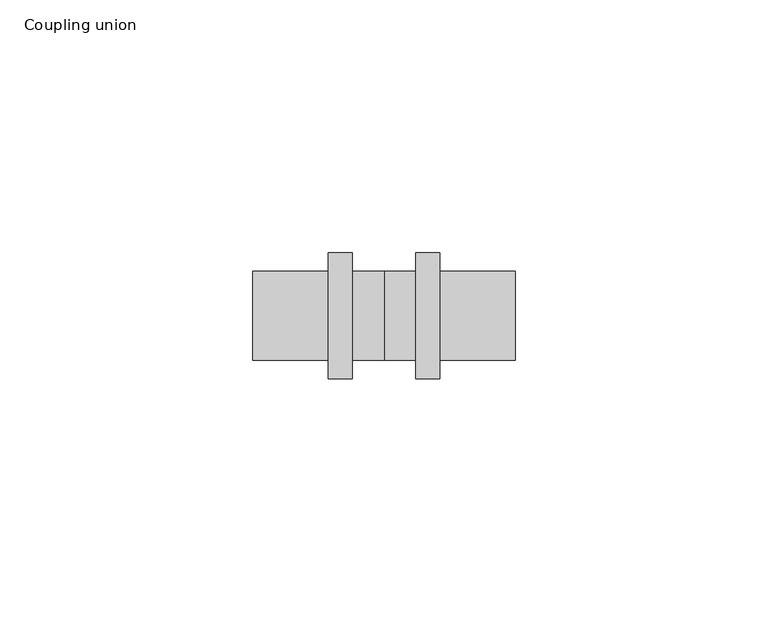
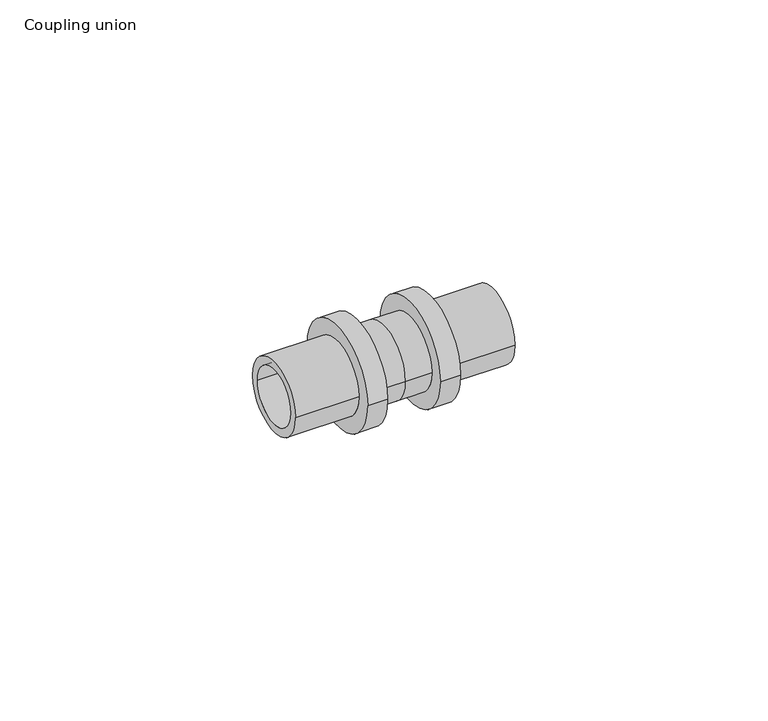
"""IFC4 building model written with IfcOpenShell, lengths in millimetres: pipe fitting geometry, Coupling union : C EQ SDR11 LX."""

from ifc_helpers import new_model, si_unit, frame, origin, place, context, project, spatial, polyline, circle_curve, source, transform, mapped, element, save
from ifc_brep_helpers import plane_surface, cylinder_surface, revolved_surface, advanced_brep


def coupling_union_0bb615ef(model_context):
    return source(origin(), model_context, "Body", "AdvancedBrep", [
        advanced_brep(
        [(11.0, 12.5, 0.0), (11.0, -12.5, 0.0), (6.3, -12.5, 0.0), (6.3, 12.5, 0.0), (26.0, 8.8, 0.0), (26.0, -8.8, 0.0), (11.0, -8.8, 0.0), (11.0, 8.8, 0.0), (-26.0, 6.8, 0.0), (-26.0, -6.8, 0.0), (26.0, -6.8, 0.0), (26.0, 6.8, 0.0), (-11.0, 8.8, 0.0), (-11.0, -8.8, 0.0), (-26.0, -8.8, 0.0), (-26.0, 8.8, 0.0), (-6.3, 12.5, 0.0), (-6.3, -12.5, 0.0), (-11.0, -12.5, 0.0), (-11.0, 12.5, 0.0), (0.0, 8.8, 0.0), (0.0, -8.8, 0.0), (-6.3, -8.8, 0.0), (-6.3, 8.8, 0.0), (6.3, 8.8, 0.0), (6.3, -8.8, 0.0)],
        [
            (0, 1, circle_curve(frame((11.0, 0.0, 0.0), z_axis=(-1.0, 0.0, 0.0), x_axis=(0.0, -1.0, 0.0)), 12.5)),
            (1, 2),
            (2, 3, circle_curve(frame((6.3, 0.0, 0.0), z_axis=(1.0, 0.0, 0.0), x_axis=(0.0, -1.0, 0.0)), 12.5)),
            (3, 0),
            (4, 5, circle_curve(frame((26.0, 0.0, 0.0), z_axis=(-1.0, 0.0, 0.0), x_axis=(0.0, -1.0, 0.0)), 8.8)),
            (5, 6),
            (6, 7, circle_curve(frame((11.0, 0.0, 0.0), z_axis=(1.0, 0.0, 0.0), x_axis=(0.0, -1.0, 0.0)), 8.8)),
            (7, 4),
            (8, 9, circle_curve(frame((-26.0, 0.0, 0.0), z_axis=(-1.0, 0.0, 0.0), x_axis=(0.0, -1.0, 0.0)), 6.8)),
            (9, 10),
            (10, 11, circle_curve(frame((26.0, 0.0, 0.0), z_axis=(1.0, 0.0, 0.0), x_axis=(0.0, -1.0, 0.0)), 6.8)),
            (11, 8),
            (12, 13, circle_curve(frame((-11.0, 0.0, 0.0), z_axis=(-1.0, 0.0, 0.0), x_axis=(0.0, -1.0, 0.0)), 8.8)),
            (13, 14),
            (14, 15, circle_curve(frame((-26.0, 0.0, 0.0), z_axis=(1.0, 0.0, 0.0), x_axis=(0.0, -1.0, 0.0)), 8.8)),
            (15, 12),
            (16, 17, circle_curve(frame((-6.3, 0.0, 0.0), z_axis=(-1.0, 0.0, 0.0), x_axis=(0.0, -1.0, 0.0)), 12.5)),
            (17, 18),
            (18, 19, circle_curve(frame((-11.0, 0.0, 0.0), z_axis=(1.0, 0.0, 0.0), x_axis=(0.0, -1.0, 0.0)), 12.5)),
            (19, 16),
            (20, 21, circle_curve(frame((0.0, 0.0, 0.0), z_axis=(-1.0, 0.0, 0.0), x_axis=(0.0, -1.0, 0.0)), 8.8)),
            (21, 22),
            (22, 23, circle_curve(frame((-6.3, 0.0, 0.0), z_axis=(1.0, 0.0, 0.0), x_axis=(0.0, -1.0, 0.0)), 8.8)),
            (23, 20),
            (24, 25, circle_curve(frame((6.3, 0.0, 0.0), z_axis=(-1.0, 0.0, 0.0), x_axis=(0.0, -1.0, 0.0)), 8.8)),
            (25, 21),
            (20, 24),
            (1, 0, circle_curve(frame((11.0, 0.0, 0.0), z_axis=(-1.0, 0.0, 0.0), x_axis=(0.0, 1.0, 0.0)), 12.5)),
            (3, 2, circle_curve(frame((6.3, 0.0, 0.0), z_axis=(1.0, 0.0, 0.0), x_axis=(0.0, 1.0, 0.0)), 12.5)),
            (6, 7, circle_curve(frame((11.0, 0.0, 0.0), z_axis=(-1.0, 0.0, 0.0), x_axis=(0.0, 1.0, 0.0)), 8.8)),
            (5, 4, circle_curve(frame((26.0, 0.0, 0.0), z_axis=(-1.0, 0.0, 0.0), x_axis=(0.0, 1.0, 0.0)), 8.8)),
            (10, 11, circle_curve(frame((26.0, 0.0, 0.0), z_axis=(-1.0, 0.0, 0.0), x_axis=(0.0, 1.0, 0.0)), 6.8)),
            (9, 8, circle_curve(frame((-26.0, 0.0, 0.0), z_axis=(-1.0, 0.0, 0.0), x_axis=(0.0, 1.0, 0.0)), 6.8)),
            (14, 15, circle_curve(frame((-26.0, 0.0, 0.0), z_axis=(-1.0, 0.0, 0.0), x_axis=(0.0, 1.0, 0.0)), 8.8)),
            (13, 12, circle_curve(frame((-11.0, 0.0, 0.0), z_axis=(-1.0, 0.0, 0.0), x_axis=(0.0, 1.0, 0.0)), 8.8)),
            (18, 19, circle_curve(frame((-11.0, 0.0, 0.0), z_axis=(-1.0, 0.0, 0.0), x_axis=(0.0, 1.0, 0.0)), 12.5)),
            (17, 16, circle_curve(frame((-6.3, 0.0, 0.0), z_axis=(-1.0, 0.0, 0.0), x_axis=(0.0, 1.0, 0.0)), 12.5)),
            (22, 23, circle_curve(frame((-6.3, 0.0, 0.0), z_axis=(-1.0, 0.0, 0.0), x_axis=(0.0, 1.0, 0.0)), 8.8)),
            (21, 20, circle_curve(frame((0.0, 0.0, 0.0), z_axis=(-1.0, 0.0, 0.0), x_axis=(0.0, 1.0, 0.0)), 8.8)),
            (25, 24, circle_curve(frame((6.3, 0.0, 0.0), z_axis=(-1.0, 0.0, 0.0), x_axis=(0.0, 1.0, 0.0)), 8.8)),
        ],
        [
            cylinder_surface(frame((0.0, 0.0, 0.0), z_axis=(1.0, 0.0, 0.0), x_axis=(0.0, -1.0, 0.0)), 12.5),
            cylinder_surface(frame((0.0, 0.0, 0.0), z_axis=(1.0, 0.0, 0.0), x_axis=(0.0, -1.0, 0.0)), 8.8),
            revolved_surface(polyline([(26.0, -6.8, 0.0), (-26.0, -6.8, 0.0)]), (0.0, 0.0, 0.0), (1.0, 0.0, 0.0)),
            cylinder_surface(frame((0.0, 0.0, 0.0), z_axis=(1.0, 0.0, 0.0), x_axis=(0.0, 1.0, 0.0)), 12.5),
            plane_surface(frame((11.0, 0.0, 0.0), z_axis=(1.0, 0.0, 0.0), x_axis=(0.0, 1.0, 0.0))),
            cylinder_surface(frame((0.0, 0.0, 0.0), z_axis=(1.0, 0.0, 0.0), x_axis=(0.0, 1.0, 0.0)), 8.8),
            plane_surface(frame((26.0, 0.0, 0.0), z_axis=(1.0, 0.0, 0.0), x_axis=(0.0, 1.0, 0.0))),
            revolved_surface(polyline([(26.0, 6.8, 0.0), (-26.0, 6.8, 0.0)]), (0.0, 0.0, 0.0), (1.0, 0.0, 0.0)),
            plane_surface(frame((-26.0, 0.0, 0.0), z_axis=(-1.0, 0.0, 0.0), x_axis=(0.0, 1.0, 0.0))),
            plane_surface(frame((-11.0, 0.0, 0.0), z_axis=(-1.0, 0.0, 0.0), x_axis=(0.0, 1.0, 0.0))),
            plane_surface(frame((-6.3, 0.0, 0.0), z_axis=(1.0, 0.0, 0.0), x_axis=(0.0, 1.0, 0.0))),
            plane_surface(frame((6.3, 0.0, 0.0), z_axis=(-1.0, 0.0, 0.0), x_axis=(0.0, 1.0, 0.0))),
        ],
        [
            (0, [[1, 2, 3, 4]]),
            (1, [[5, 6, 7, 8]]),
            (2, [[9, 10, 11, 12]]),
            (1, [[13, 14, 15, 16]]),
            (0, [[17, 18, 19, 20]]),
            (1, [[21, 22, 23, 24]]),
            (1, [[25, 26, -21, 27]]),
            (3, [[28, -4, 29, -2]]),
            (4, [[-28, -1], [30, -7]]),
            (5, [[31, -8, -30, -6]]),
            (6, [[-31, -5], [32, -11]]),
            (7, [[33, -12, -32, -10]]),
            (8, [[34, -15], [-33, -9]]),
            (5, [[35, -16, -34, -14]]),
            (9, [[36, -19], [-35, -13]]),
            (3, [[37, -20, -36, -18]]),
            (10, [[-37, -17], [38, -23]]),
            (5, [[39, -24, -38, -22]]),
            (5, [[40, -27, -39, -26]]),
            (11, [[-29, -3], [-40, -25]]),
        ],
    ),
    ])


if __name__ == "__main__":
    model = new_model("IFC4")
    model_context = context("Model", 3, world=origin())
    ifc_project = project(units=[si_unit("LENGTHUNIT", "METRE", prefix="MILLI")], contexts=[model_context])
    site = spatial("IfcSite", under=ifc_project)
    building = spatial("IfcBuilding", under=site)
    placement = place(None, origin())
    coupling_union_shape = coupling_union_0bb615ef(model_context)
    element("IfcPipeFitting", 1, ObjectType="Coupling union : C EQ SDR11 LX", at=placement, inside=building, context=model_context, shape_type="MappedRepresentation", body=[
        mapped(coupling_union_shape, transform((0.0, 0.0, 0.0), x_axis=(1.0, 0.0, 0.0), y_axis=(0.0, 1.0, 0.0), z_axis=(0.0, 0.0, 1.0))),
    ])
    save(model, "model.ifc")
